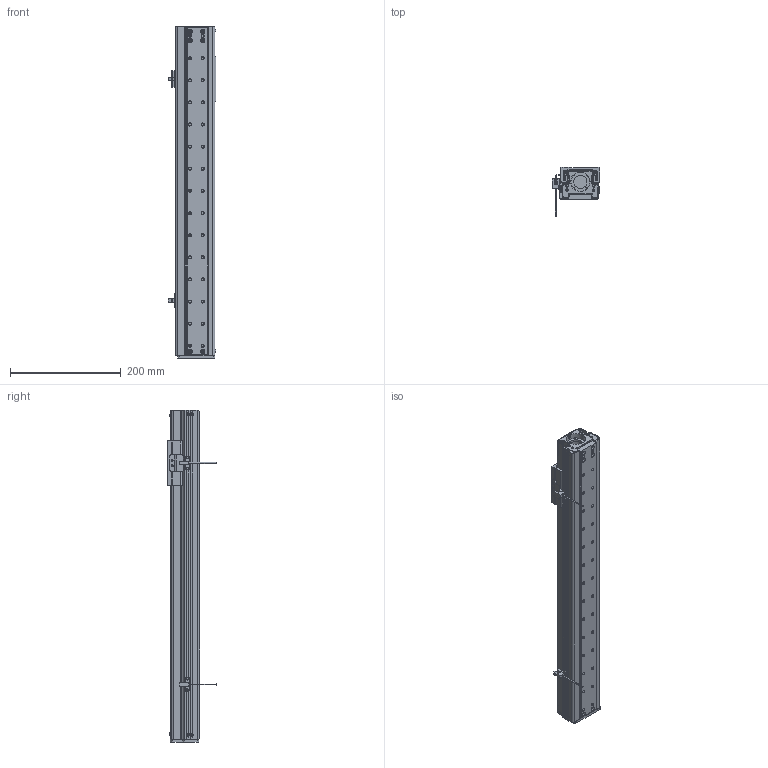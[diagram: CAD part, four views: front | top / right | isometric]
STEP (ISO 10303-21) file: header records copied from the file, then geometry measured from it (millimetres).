
FILE_DESCRIPTION (( 'STEP AP203' ), '1' );
FILE_NAME ('CTHM6-S400.STEP', '2019-12-18T01:47:22', ( '微软用户' ), ( '微软中国' ), 'SwSTEP 2.0', 'SolidWorks 2017', '' );
FILE_SCHEMA (( 'CONFIG_CONTROL_DESIGN' ));
Length unit declared in the file: millimetre
Products named in the file (17): 侧挡板2(带磁条修改厚度); 固定侧轴承座(自制轴承座); M3-L6半圆头内六角螺丝; 羲壽え; M3-L6囀鞠褒蹟佪; 支持侧轴承座(带磁条); EE-SX672-BR; 遣喳蝶15x12x8; 滅袉蝶; MG60裔啣; CTHM6-S400; 耜結啣(湍羞); LMW15奻窅; DG60傷裔(祥結傷裔); 蟀諉釱(裔啣党蜊); M4-L10囀鞠褒蹟佪; LMW15AA
Assembly tree (29 placements, depth 2):
  CTHM6-S400
    LMW15奻窅
    蟀諉釱(裔啣党蜊)
    LMW15AA
    固定侧轴承座(自制轴承座)
    羲壽え
    支持侧轴承座(带磁条)
    遣喳蝶15x12x8  x2
    MG60裔啣
    耜結啣(湍羞)
    DG60傷裔(祥結傷裔)
    M4-L10囀鞠褒蹟佪  x2
    侧挡板2(带磁条修改厚度)
    M3-L6半圆头内六角螺丝  x8
    M3-L6囀鞠褒蹟佪  x4
    EE-SX672-BR  x2
    滅袉蝶
Bounding box: 86.7 x 87.8 x 600 mm (x, y, z)
Volume: 673859.7 mm3; surface area: 448965.4 mm2
Topology: 33 solids, 33 shells, 1913 faces, 4922 edges, 3048 vertices
Faces by surface type: plane 788, cylinder 689, cone 322, torus 88, bspline 26
Entity records: 52292 total; most frequent: CARTESIAN_POINT 10963, DIRECTION 8470, ORIENTED_EDGE 8060, EDGE_CURVE 4030, AXIS2_PLACEMENT_3D 3156, VERTEX_POINT 2549, LINE 2158, VECTOR 2158
